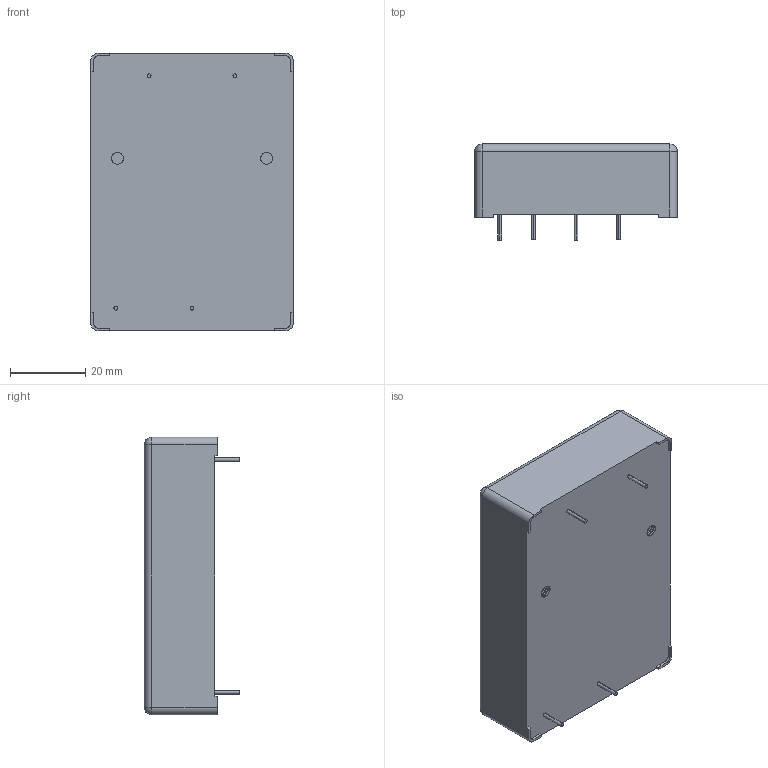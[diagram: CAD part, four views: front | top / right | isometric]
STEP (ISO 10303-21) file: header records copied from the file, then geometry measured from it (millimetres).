
FILE_DESCRIPTION (( 'STEP AP203' ), '1' );
FILE_NAME ('TMP 15 Single Output.STEP', '2020-11-25T00:41:07', ( '' ), ( '' ), 'SwSTEP 2.0', 'SolidWorks 2020', '' );
FILE_SCHEMA (( 'CONFIG_CONTROL_DESIGN' ));
Length unit declared in the file: millimetre
Products named in the file (1): TMP 15 Single Output
Bounding box: 54 x 25.5 x 74 mm (x, y, z)
Volume: 74785.5 mm3; surface area: 12840.3 mm2
Topology: 1 solids, 1 shells, 100 faces, 258 edges, 162 vertices
Faces by surface type: cylinder 52, plane 36, bspline 8, sphere 4
Entity records: 5588 total; most frequent: CARTESIAN_POINT 3286, ORIENTED_EDGE 508, DIRECTION 424, EDGE_CURVE 254, VERTEX_POINT 162, AXIS2_PLACEMENT_3D 145, LINE 134, VECTOR 134
